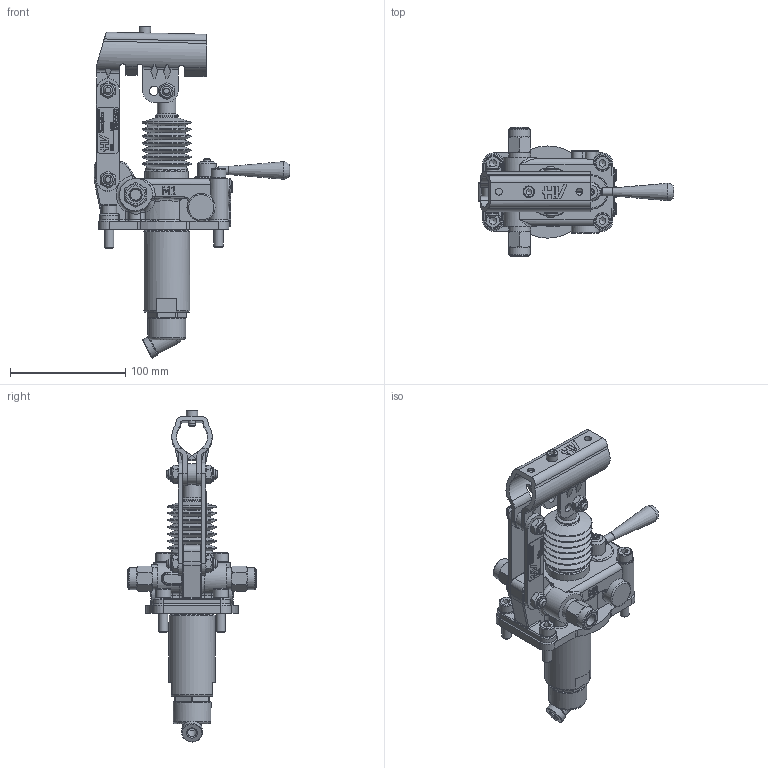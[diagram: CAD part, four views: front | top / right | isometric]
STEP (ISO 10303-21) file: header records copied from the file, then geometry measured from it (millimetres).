
FILE_DESCRIPTION((''),'2;1');
FILE_NAME('G:\HV_HYDRAULIC\AZIENDA_HV_HYDRAULIC\ARCHIVIO_DISEGNI\5_PRODOTTI_FINITI\1_POMPE_MANUALI\6062_PMDVB_45\6062.0101_PMDVB_45_cc-s_(HV)\6062.0101.stp','2024-03-07T15:24:33',('christian.scardovi'),(''),'Autodesk Inventor 2013','Autodesk Inventor 2013','');
FILE_SCHEMA(('AUTOMOTIVE_DESIGN { 1 0 10303 214 1 1 1 1 }'));
Length unit declared in the file: millimetre
Products named in the file (1): 6062.0101
Bounding box: 170 x 112 x 288.31 mm (x, y, z)
Surface area: 128195.7 mm2
Topology: 2 solids, 3 shells, 1522 faces, 3846 edges, 2435 vertices
Faces by surface type: plane 759, cylinder 300, bspline 184, cone 156, torus 110, sphere 13
Full cylindrical faces by diameter (mm): 3 x1, 4.917 x1, 5 x4, 6 x8, 6.5 x1, 7 x1, 8 x15, 9 x1, 9.2 x1, 10 x7, 10.376 x1, 10.5 x2, 10.917 x2, 11.05 x6, 12 x5, 13 x4, 13.2 x1, 14 x4, 15.5 x2, 15.9 x2, 16 x5, 18 x3, 19 x4, 20 x1, 21.6 x1, 22 x2, 24 x2, 26.5 x1, 27 x1, 29 x1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
Entity records: 47630 total; most frequent: CARTESIAN_POINT 12384, ORIENTED_EDGE 7060, DIRECTION 6424, EDGE_CURVE 3530, VERTEX_POINT 2352, AXIS2_PLACEMENT_3D 2253, VECTOR 1918, LINE 1918
